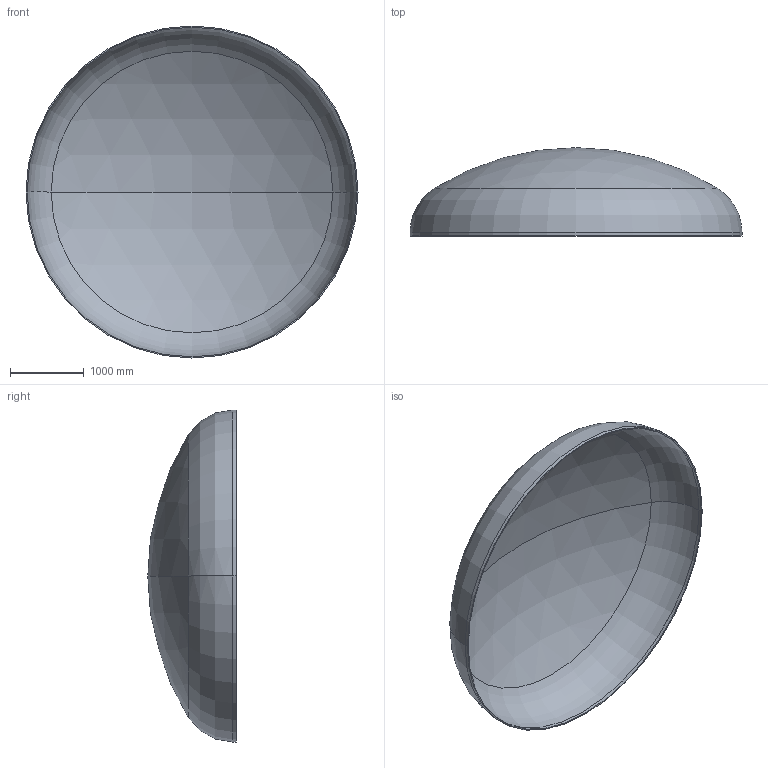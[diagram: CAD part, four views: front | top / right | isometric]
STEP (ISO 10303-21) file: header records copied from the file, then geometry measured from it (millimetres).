
FILE_DESCRIPTION (( 'STEP AP203' ), '1' );
FILE_NAME ('DIN 28013 Korbbogenform_-_Boden DIN 28013 - 4500 x 45 - I - s=15.step', '2016-07-01T23:05:08', ( '' ), ( '' ), 'SwSTEP 2.0', 'SolidWorks 2013', '' );
FILE_SCHEMA (( 'CONFIG_CONTROL_DESIGN' ));
Length unit declared in the file: millimetre
Products named in the file (1): DIN 28013 Korbbogenform_-_Boden DIN 28013 - 4500 x 45 - I - s=15
Bounding box: 4500 x 1196.79 x 4500 mm (x, y, z)
Volume: 338672039.5 mm3; surface area: 45368075.5 mm2
Topology: 1 solids, 1 shells, 13 faces, 24 edges, 14 vertices
Faces by surface type: torus 4, cylinder 4, sphere 4, plane 1
Entity records: 407 total; most frequent: DIRECTION 72, CARTESIAN_POINT 52, ORIENTED_EDGE 48, AXIS2_PLACEMENT_3D 34, EDGE_CURVE 24, CIRCLE 20, EDGE_LOOP 14, VERTEX_POINT 14
